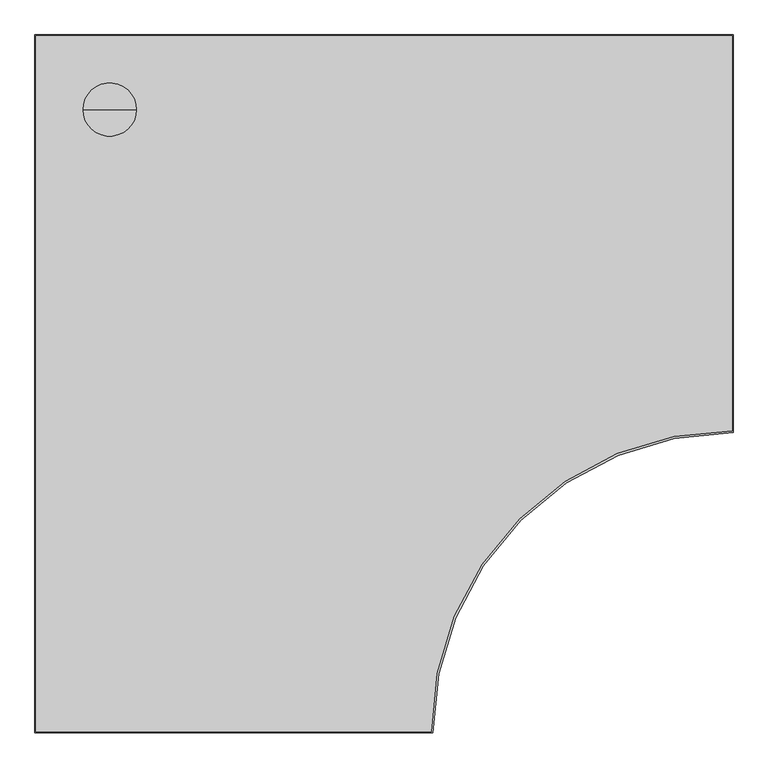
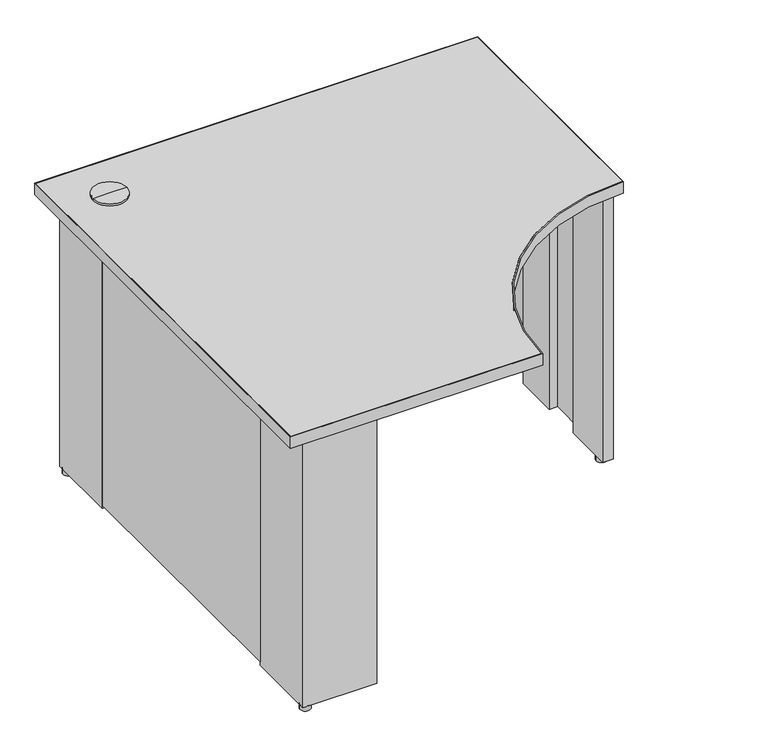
"""IFC4 building model written with IfcOpenShell, lengths in millimetres: furniture geometry, Steelcase - Kick Freestanding - Desk - Curve Corner - Full Height Modesty Panel : 24D x 42W - Right Full End Panel/Left Clear Access Support - LPL."""

from ifc_helpers import new_model, si_unit, point, frame, frame_2d, origin, origin_with_axes, place, context, project, spatial, polyline, circle_curve, trimmed, segment, composite_curve, outline, extrude, source, transform, mapped, element, save
from ifc_brep_helpers import plane_surface, cylinder_surface, advanced_brep


def furniture_e411b56e(model_context):
    return source(origin(), model_context, "Body", "SolidModel", [
        extrude(outline(composite_curve([segment(trimmed(circle_curve(frame_2d((1038.8853521, -565.8064761)), 12.7), [point((1026.1853521, -565.8064761))], [point((1051.5853521, -565.8064761))], False, "CARTESIAN"), True, "CONTINUOUS"), segment(trimmed(circle_curve(frame_2d((1038.8853521, -565.8064761)), 12.7), [point((1051.5853521, -565.8064761))], [point((1026.1853521, -565.8064761))], False, "CARTESIAN"), True, "CONTINUOUS")], self_intersect=False)), origin_with_axes(), (0.0, 0.0, 1.0), 12.446),
        extrude(outline(polyline([(215.8999939, -63.5), (63.5, -63.5), (63.5, -215.8999939), (38.1, -215.8999939), (38.1, -38.1), (215.8999939, -38.1), (215.8999939, -63.5)])), frame((0.0, 0.0, 12.446), z_axis=(0.0, 0.0, 1.0), x_axis=(1.0, 0.0, 0.0)), (0.0, 0.0, 1.0), 682.498),
        extrude(outline(polyline([(874.0393822, -63.5), (874.0393822, -38.1), (1051.8393579, -38.1), (1051.8393579, -592.582), (1025.9313463, -592.582), (1025.9313463, -469.5444), (1046.098945, -469.5444), (1046.098945, -369.824), (1025.9313463, -369.824), (1025.9313463, -261.0866), (1046.098945, -261.0866), (1046.098945, -161.3662), (1025.9313463, -161.3662), (1025.9313463, -63.5), (874.0393822, -63.5)])), frame((0.0, 0.0, 12.446), z_axis=(0.0, 0.0, 1.0), x_axis=(1.0, 0.0, 0.0)), (0.0, 0.0, 1.0), 682.498),
        advanced_brep(
        [(114.3, -114.3, 728.98), (154.94, -114.3, 728.98), (73.66, -114.3, 728.98), (76.1699693, -114.3, 694.944), (152.4300307, -114.3, 694.944), (114.3, -114.3, 694.944), (76.1699693, -114.3, 723.9), (152.4300307, -114.3, 723.9), (73.66, -114.3, 723.9), (154.94, -114.3, 723.9)],
        [
            (0, 1),
            (1, 2, circle_curve(frame((114.3, -114.3, 728.98), z_axis=(0.0, 0.0, 1.0), x_axis=(1.0, 0.0, 0.0)), 40.64)),
            (2, 0),
            (2, 1, circle_curve(frame((114.3, -114.3, 728.98), z_axis=(0.0, 0.0, 1.0), x_axis=(1.0, 0.0, 0.0)), 40.64)),
            (3, 4, circle_curve(frame((114.3, -114.3, 694.944), z_axis=(0.0, 0.0, -1.0), x_axis=(1.0, 0.0, 0.0)), 38.1300307)),
            (4, 5),
            (5, 3),
            (4, 3, circle_curve(frame((114.3, -114.3, 694.944), z_axis=(0.0, 0.0, -1.0), x_axis=(1.0, 0.0, 0.0)), 38.1300307)),
            (6, 7, circle_curve(frame((114.3, -114.3, 723.9), z_axis=(0.0, 0.0, -1.0), x_axis=(1.0, 0.0, 0.0)), 38.1300307)),
            (7, 4),
            (3, 6),
            (7, 6, circle_curve(frame((114.3, -114.3, 723.9), z_axis=(0.0, 0.0, -1.0), x_axis=(1.0, 0.0, 0.0)), 38.1300307)),
            (8, 9, circle_curve(frame((114.3, -114.3, 723.9), z_axis=(0.0, 0.0, -1.0), x_axis=(1.0, 0.0, 0.0)), 40.64)),
            (9, 7),
            (6, 8),
            (9, 8, circle_curve(frame((114.3, -114.3, 723.9), z_axis=(0.0, 0.0, -1.0), x_axis=(1.0, 0.0, 0.0)), 40.64)),
            (1, 9),
            (8, 2),
        ],
        [
            plane_surface(frame((114.3, -114.3, 728.98), z_axis=(0.0, 0.0, 1.0), x_axis=(1.0, 0.0, 0.0))),
            plane_surface(frame((114.3, -114.3, 694.944), z_axis=(0.0, 0.0, -1.0), x_axis=(1.0, 0.0, 0.0))),
            cylinder_surface(frame((114.3, -114.3, 728.98), z_axis=(0.0, 0.0, 1.0), x_axis=(1.0, 0.0, 0.0)), 38.1300307),
            plane_surface(frame((114.3, -114.3, 723.9), z_axis=(0.0, 0.0, -1.0), x_axis=(1.0, 0.0, 0.0))),
            cylinder_surface(frame((114.3, -114.3, 728.98), z_axis=(0.0, 0.0, 1.0), x_axis=(1.0, 0.0, 0.0)), 40.64),
        ],
        [
            (0, [[1, 2, 3]]),
            (0, [[-3, 4, -1]]),
            (1, [[5, 6, 7]]),
            (1, [[8, -7, -6]]),
            (2, [[9, 10, -5, 11]]),
            (2, [[12, -11, -8, -10]]),
            (3, [[13, 14, -9, 15]]),
            (3, [[16, -15, -12, -14]]),
            (4, [[-2, 17, -13, 18]]),
            (4, [[-4, -18, -16, -17]]),
        ],
    ),
        extrude(outline(composite_curve([segment(trimmed(circle_curve(frame_2d((50.8, -50.8)), 12.7), [point((38.1, -50.8))], [point((63.5, -50.8))], False, "CARTESIAN"), True, "CONTINUOUS"), segment(trimmed(circle_curve(frame_2d((50.8, -50.8)), 12.7), [point((63.5, -50.8))], [point((38.1, -50.8))], False, "CARTESIAN"), True, "CONTINUOUS")], self_intersect=False)), origin_with_axes(), (0.0, 0.0, 1.0), 12.446),
        extrude(outline(composite_curve([segment(trimmed(circle_curve(frame_2d((50.8, -1040.1300073)), 12.7484998), [point((38.0515002, -1040.1300073))], [point((63.5484998, -1040.1300073))], False, "CARTESIAN"), True, "CONTINUOUS"), segment(trimmed(circle_curve(frame_2d((50.8, -1040.1300073)), 12.7484998), [point((63.5484998, -1040.1300073))], [point((38.0515002, -1040.1300073))], False, "CARTESIAN"), True, "CONTINUOUS")], self_intersect=False)), origin_with_axes(), (0.0, 0.0, 1.0), 12.446),
        extrude(outline(composite_curve([segment(trimmed(circle_curve(frame_2d((1038.8853521, -50.8)), 12.7), [point((1026.1853521, -50.8))], [point((1051.5853521, -50.8))], False, "CARTESIAN"), True, "CONTINUOUS"), segment(trimmed(circle_curve(frame_2d((1038.8853521, -50.8)), 12.7), [point((1051.5853521, -50.8))], [point((1026.1853521, -50.8))], False, "CARTESIAN"), True, "CONTINUOUS")], self_intersect=False)), origin_with_axes(), (0.0, 0.0, 1.0), 12.446),
        extrude(outline(polyline([(63.5, -215.8999939), (63.5, -875.0300194), (38.1, -875.0300194), (38.1, -215.8999939), (63.5, -215.8999939)])), frame((0.0, 0.0, 20.828), z_axis=(0.0, 0.0, 1.0), x_axis=(1.0, 0.0, 0.0)), (0.0, 0.0, 1.0), 674.116),
        extrude(outline(polyline([(874.0393822, -38.1), (874.0393822, -63.5), (215.8999939, -63.5), (215.8999939, -38.1), (874.0393822, -38.1)])), frame((0.0, 0.0, 20.828), z_axis=(0.0, 0.0, 1.0), x_axis=(1.0, 0.0, 0.0)), (0.0, 0.0, 1.0), 674.116),
        extrude(outline(polyline([(215.8999939, -1027.4300194), (215.8999939, -1052.8299952), (38.1, -1052.8299952), (38.1, -875.0300194), (63.5, -875.0300194), (63.5, -1027.4300194), (215.8999939, -1027.4300194)])), frame((0.0, 0.0, 12.446), z_axis=(0.0, 0.0, 1.0), x_axis=(1.0, 0.0, 0.0)), (0.0, 0.0, 1.0), 682.498),
        extrude(outline(composite_curve([segment(polyline([(0.9906, -1065.8093628), (0.9906, -0.9906), (1065.8093628, -0.9906), (1065.8093628, -605.3354109)]), True, "CONTINUOUS"), segment(trimmed(circle_curve(frame_2d((1064.5393458, -1064.5393458)), 459.2056912), [point((1065.8093628, -605.3354109))], [point((605.3354109, -1065.8093628))], True, "CARTESIAN"), True, "CONTINUOUS"), segment(polyline([(605.3354109, -1065.8093628), (0.9906, -1065.8093628)]), True, "CONTINUOUS")], self_intersect=False)), frame((0.0, 0.0, 694.944), z_axis=(0.0, 0.0, 1.0), x_axis=(1.0, 0.0, 0.0)), (0.0, 0.0, 1.0), 28.956),
        extrude(outline(composite_curve([segment(polyline([(1066.8, 0.0), (1066.8, -608.332629)]), True, "CONTINUOUS"), segment(trimmed(circle_curve(frame_2d((1065.529983, -1065.529983)), 457.199118), [point((1066.8, -608.332629))], [point((608.332629, -1066.8))], True, "CARTESIAN"), True, "CONTINUOUS"), segment(polyline([(608.332629, -1066.8), (0.0, -1066.8), (0.0, 0.0), (1066.8, 0.0)]), True, "CONTINUOUS")], self_intersect=False), holes=[composite_curve([segment(polyline([(1065.8093628, -0.9906), (0.9906, -0.9906), (0.9906, -1065.8093628), (605.3354109, -1065.8093628)]), True, "CONTINUOUS"), segment(trimmed(circle_curve(frame_2d((1064.5393458, -1064.5393458)), 459.2056912), [point((605.3354109, -1065.8093628))], [point((1065.8093628, -605.3354109))], False, "CARTESIAN"), True, "CONTINUOUS"), segment(polyline([(1065.8093628, -605.3354109), (1065.8093628, -0.9906)]), True, "CONTINUOUS")], self_intersect=False)]), frame((0.0, 0.0, 694.944), z_axis=(0.0, 0.0, 1.0), x_axis=(1.0, 0.0, 0.0)), (0.0, 0.0, 1.0), 28.956),
    ])


if __name__ == "__main__":
    model = new_model("IFC4")
    model_context = context("Model", 3, world=origin())
    ifc_project = project(units=[si_unit("LENGTHUNIT", "METRE", prefix="MILLI")], contexts=[model_context])
    site = spatial("IfcSite", under=ifc_project)
    building = spatial("IfcBuilding", under=site)
    placement = place(None, origin())
    furniture_shape = furniture_e411b56e(model_context)
    element("IfcFurniture", 1, ObjectType="Steelcase - Kick Freestanding - Desk - Curve Corner - Full Height Modesty Panel : 24D x 42W - Right Full End Panel/Left Clear Access Support - LPL", at=placement, inside=building, context=model_context, shape_type="MappedRepresentation", body=[
        mapped(furniture_shape, transform((0.0, 0.0, 0.0), x_axis=(1.0, 0.0, 0.0), y_axis=(0.0, 1.0, 0.0), z_axis=(0.0, 0.0, 1.0))),
    ])
    save(model, "model.ifc")
